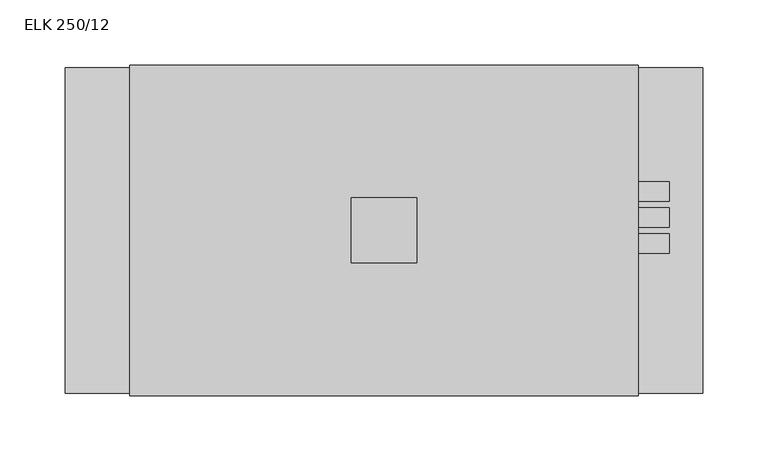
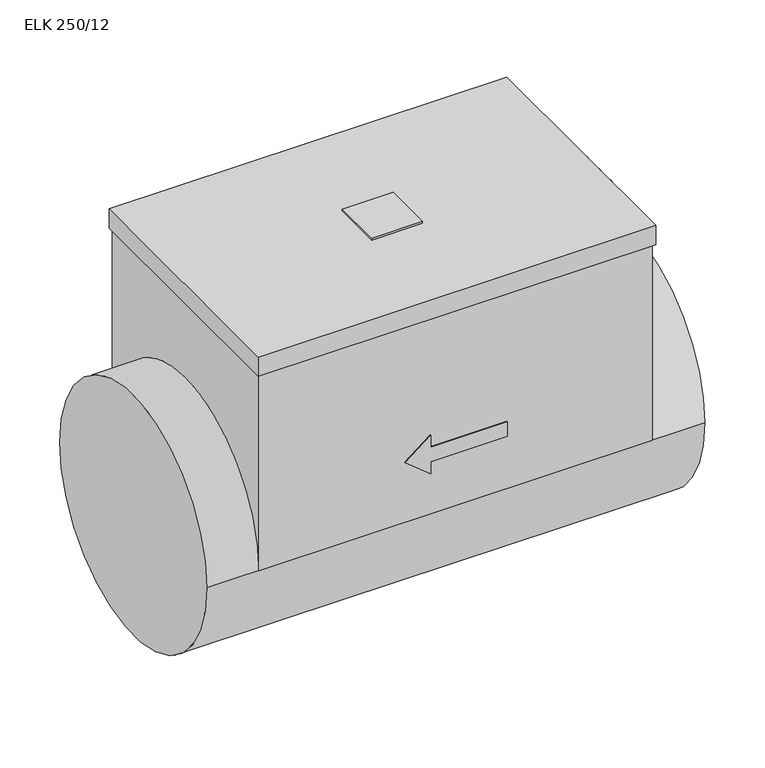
"""IFC4 building model written with IfcOpenShell, lengths in millimetres: proxy geometry, KORF_Нагреватель_Электрический_Круглый_ELK : ELK 250/12."""

from ifc_helpers import new_model, si_unit, point, frame, frame_2d, origin, place, context, project, spatial, polyline, circle_curve, trimmed, segment, composite_curve, outline, extrude, source, transform, mapped, element, save
from ifc_brep_helpers import plane_surface, cylinder_surface, advanced_brep


def elk_250_12_b1c06b70(model_context):
    return source(origin(), model_context, "Body", "SolidModel", [
        extrude(outline(polyline([(270.0, 25.0), (270.0, -25.0), (220.0, -25.0), (220.0, 25.0), (270.0, 25.0)])), frame((0.0, 0.0, 224.0), z_axis=(0.0, 0.0, 1.0), x_axis=(1.0, 0.0, 0.0)), (0.0, 0.0, 1.0), 2.0),
        extrude(outline(composite_curve([segment(trimmed(circle_curve(frame_2d((-10.0, 184.0)), 7.5), [point((-17.5, 184.0))], [point((-2.5, 184.0))], False, "CARTESIAN"), True, "CONTINUOUS"), segment(trimmed(circle_curve(frame_2d((-10.0, 184.0)), 7.5), [point((-2.5, 184.0))], [point((-17.5, 184.0))], False, "CARTESIAN"), True, "CONTINUOUS")], self_intersect=False)), frame((438.5, 0.0, 0.0), z_axis=(1.0, 0.0, 0.0), x_axis=(0.0, 1.0, 0.0)), (0.0, 0.0, 1.0), 25.75),
        extrude(outline(composite_curve([segment(trimmed(circle_curve(frame_2d((10.0, 184.0)), 7.5), [point((2.5, 184.0))], [point((17.5, 184.0))], False, "CARTESIAN"), True, "CONTINUOUS"), segment(trimmed(circle_curve(frame_2d((10.0, 184.0)), 7.5), [point((17.5, 184.0))], [point((2.5, 184.0))], False, "CARTESIAN"), True, "CONTINUOUS")], self_intersect=False)), frame((438.5, 0.0, 0.0), z_axis=(1.0, 0.0, 0.0), x_axis=(0.0, 1.0, 0.0)), (0.0, 0.0, 1.0), 25.75),
        extrude(outline(composite_curve([segment(trimmed(circle_curve(frame_2d((30.0, 184.0)), 7.5), [point((22.5, 184.0))], [point((37.5, 184.0))], False, "CARTESIAN"), True, "CONTINUOUS"), segment(trimmed(circle_curve(frame_2d((30.0, 184.0)), 7.5), [point((37.5, 184.0))], [point((22.5, 184.0))], False, "CARTESIAN"), True, "CONTINUOUS")], self_intersect=False)), frame((438.5, 0.0, 0.0), z_axis=(1.0, 0.0, 0.0), x_axis=(0.0, 1.0, 0.0)), (0.0, 0.0, 1.0), 25.75),
        advanced_brep(
        [(440.5, 127.0, 204.0), (440.5, -127.0, 204.0), (49.5, -127.0, 204.0), (49.5, 127.0, 204.0), (438.5, 125.0, 204.0), (51.5, 125.0, 204.0), (51.5, -125.0, 204.0), (438.5, -125.0, 204.0), (440.5, 127.0, 224.0), (49.5, 127.0, 224.0), (49.5, -127.0, 224.0), (440.5, -127.0, 224.0), (438.5, 125.0, 0.0), (51.5, 125.0, 0.0), (220.0, 125.0, 82.5), (195.0, 125.0, 62.5), (220.0, 125.0, 42.5), (220.0, 125.0, 55.0), (295.0, 125.0, 55.0), (295.0, 125.0, 70.0), (220.0, 125.0, 70.0), (51.5, -125.0, 0.0), (438.5, -125.0, 0.0), (195.0, -125.0, 62.5), (220.0, -125.0, 82.5), (220.0, -125.0, 70.0), (295.0, -125.0, 70.0), (295.0, -125.0, 55.0), (220.0, -125.0, 55.0), (220.0, -125.0, 42.5), (490.0, -125.0, 0.0), (490.0, 125.0, 0.0), (0.0, -125.0, 0.0), (0.0, 125.0, 0.0), (220.0, -126.0, 82.5), (195.0, -126.0, 62.5), (220.0, -126.0, 42.5), (220.0, -126.0, 55.0), (295.0, -126.0, 55.0), (295.0, -126.0, 70.0), (220.0, -126.0, 70.0), (220.0, 126.0, 82.5), (220.0, 126.0, 70.0), (295.0, 126.0, 70.0), (295.0, 126.0, 55.0), (220.0, 126.0, 55.0), (220.0, 126.0, 42.5), (195.0, 126.0, 62.5)],
        [
            (0, 1),
            (1, 2),
            (2, 3),
            (3, 0),
            (4, 5),
            (5, 6),
            (6, 7),
            (7, 4),
            (8, 9),
            (9, 10),
            (10, 11),
            (11, 8),
            (3, 9),
            (8, 0),
            (2, 10),
            (1, 11),
            (4, 12),
            (12, 13),
            (13, 5),
            (14, 15),
            (15, 16),
            (16, 17),
            (17, 18),
            (18, 19),
            (19, 20),
            (20, 14),
            (13, 21, circle_curve(frame((51.5, 0.0, 0.0), z_axis=(1.0, 0.0, 0.0), x_axis=(0.0, 1.0, 0.0)), 125.0)),
            (21, 6),
            (21, 22),
            (22, 7),
            (23, 24),
            (24, 25),
            (25, 26),
            (26, 27),
            (27, 28),
            (28, 29),
            (29, 23),
            (22, 12, circle_curve(frame((438.5, 0.0, 0.0), z_axis=(-1.0, 0.0, 0.0), x_axis=(0.0, 1.0, 0.0)), 125.0)),
            (30, 31, circle_curve(frame((490.0, 0.0, 0.0), z_axis=(1.0, 0.0, 0.0), x_axis=(0.0, 1.0, 0.0)), 125.0)),
            (31, 30, circle_curve(frame((490.0, 0.0, 0.0), z_axis=(1.0, 0.0, 0.0), x_axis=(0.0, 1.0, 0.0)), 125.0)),
            (32, 33, circle_curve(frame((0.0, 0.0, 0.0), z_axis=(-1.0, 0.0, 0.0), x_axis=(0.0, 1.0, 0.0)), 125.0)),
            (33, 32, circle_curve(frame((0.0, 0.0, 0.0), z_axis=(-1.0, 0.0, 0.0), x_axis=(0.0, 1.0, 0.0)), 125.0)),
            (30, 22),
            (21, 32),
            (33, 13),
            (12, 31),
            (34, 35),
            (35, 36),
            (36, 37),
            (37, 38),
            (38, 39),
            (39, 40),
            (40, 34),
            (41, 42),
            (42, 43),
            (43, 44),
            (44, 45),
            (45, 46),
            (46, 47),
            (47, 41),
            (34, 24),
            (23, 35),
            (47, 15),
            (14, 41),
            (29, 36),
            (46, 16),
            (28, 37),
            (45, 17),
            (27, 38),
            (44, 18),
            (26, 39),
            (43, 19),
            (25, 40),
            (42, 20),
        ],
        [
            plane_surface(frame((49.5, 127.0, 204.0), z_axis=(0.0, 0.0, -1.0), x_axis=(1.0, 0.0, 0.0))),
            plane_surface(frame((49.5, 127.0, 224.0), z_axis=(0.0, 0.0, 1.0), x_axis=(-1.0, 0.0, 0.0))),
            plane_surface(frame((440.5, 127.0, 224.0), z_axis=(0.0, 1.0, 0.0), x_axis=(0.0, 0.0, -1.0))),
            plane_surface(frame((49.5, 127.0, 224.0), z_axis=(-1.0, 0.0, 0.0), x_axis=(0.0, 0.0, -1.0))),
            plane_surface(frame((49.5, -127.0, 224.0), z_axis=(0.0, -1.0, 0.0), x_axis=(0.0, 0.0, -1.0))),
            plane_surface(frame((440.5, -127.0, 224.0), z_axis=(1.0, 0.0, 0.0), x_axis=(0.0, 0.0, -1.0))),
            plane_surface(frame((438.5, 125.0, 224.0), z_axis=(0.0, 1.0, 0.0), x_axis=(0.0, 0.0, -1.0))),
            plane_surface(frame((51.5, 125.0, 224.0), z_axis=(-1.0, 0.0, 0.0), x_axis=(0.0, 0.0, -1.0))),
            plane_surface(frame((51.5, -125.0, 224.0), z_axis=(0.0, -1.0, 0.0), x_axis=(0.0, 0.0, -1.0))),
            plane_surface(frame((438.5, -125.0, 224.0), z_axis=(1.0, 0.0, 0.0), x_axis=(0.0, 0.0, -1.0))),
            plane_surface(frame((490.0, 125.0, 0.0), z_axis=(1.0, 0.0, 0.0), x_axis=(0.0, 0.0, 1.0))),
            plane_surface(frame((0.0, 125.0, 0.0), z_axis=(-1.0, 0.0, 0.0), x_axis=(0.0, 0.0, -1.0))),
            cylinder_surface(frame((0.0, 0.0, 0.0), z_axis=(1.0, 0.0, 0.0), x_axis=(0.0, 1.0, 0.0)), 125.0),
            plane_surface(frame((195.0, -126.0, 62.5), z_axis=(0.0, -1.0000000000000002, 0.0), x_axis=(-0.7808688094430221, 0.0, -0.6246950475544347))),
            plane_surface(frame((195.0, 126.0, 62.5), z_axis=(0.0, 1.0000000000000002, 0.0), x_axis=(0.7808688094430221, 0.0, 0.6246950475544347))),
            plane_surface(frame((220.0, -126.0, 82.5), z_axis=(-0.6246950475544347, 0.0, 0.7808688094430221), x_axis=(0.0, 1.0, 0.0))),
            plane_surface(frame((195.0, -126.0, 62.5), z_axis=(-0.624695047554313, 0.0, -0.7808688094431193), x_axis=(0.0, 1.0, 0.0))),
            plane_surface(frame((220.0, -126.0, 42.5), z_axis=(1.0, 0.0, 0.0), x_axis=(0.0, 1.0, 0.0))),
            plane_surface(frame((220.0, -126.0, 55.0), z_axis=(0.0, 0.0, -1.0), x_axis=(0.0, 1.0, 0.0))),
            plane_surface(frame((295.0, -126.0, 55.0), z_axis=(1.0, 0.0, 0.0), x_axis=(0.0, 1.0, 0.0))),
            plane_surface(frame((295.0, -126.0, 70.0), z_axis=(0.0, 0.0, 1.0), x_axis=(0.0, 1.0, 0.0))),
            plane_surface(frame((220.0, -126.0, 70.0), z_axis=(1.0, 0.0, 0.0), x_axis=(0.0, 1.0, 0.0))),
        ],
        [
            (0, [[1, 2, 3, 4], [5, 6, 7, 8]]),
            (1, [[9, 10, 11, 12]]),
            (2, [[-4, 13, -9, 14]]),
            (3, [[-3, 15, -10, -13]]),
            (4, [[-2, 16, -11, -15]]),
            (5, [[-1, -14, -12, -16]]),
            (6, [[17, 18, 19, -5], [20, 21, 22, 23, 24, 25, 26]]),
            (7, [[-19, 27, 28, -6]]),
            (8, [[-28, 29, 30, -7], [31, 32, 33, 34, 35, 36, 37]]),
            (9, [[-17, -8, -30, 38]]),
            (10, [[39, 40]]),
            (11, [[41, 42]]),
            (12, [[-39, 43, -29, 44, -42, 45, -18, 46]]),
            (12, [[-40, -46, -38, -43]]),
            (12, [[-41, -44, -27, -45]]),
            (13, [[47, 48, 49, 50, 51, 52, 53]]),
            (14, [[54, 55, 56, 57, 58, 59, 60]]),
            (15, [[-47, 61, -31, 62]]),
            (15, [[-60, 63, -20, 64]]),
            (16, [[-48, -62, -37, 65]]),
            (16, [[-59, 66, -21, -63]]),
            (17, [[-49, -65, -36, 67]]),
            (17, [[-58, 68, -22, -66]]),
            (18, [[-50, -67, -35, 69]]),
            (18, [[-57, 70, -23, -68]]),
            (19, [[-51, -69, -34, 71]]),
            (19, [[-56, 72, -24, -70]]),
            (20, [[-52, -71, -33, 73]]),
            (20, [[-55, 74, -25, -72]]),
            (21, [[-53, -73, -32, -61]]),
            (21, [[-54, -64, -26, -74]]),
        ],
    ),
    ])


if __name__ == "__main__":
    model = new_model("IFC4")
    model_context = context("Model", 3, world=origin())
    ifc_project = project(units=[si_unit("LENGTHUNIT", "METRE", prefix="MILLI")], contexts=[model_context])
    site = spatial("IfcSite", under=ifc_project)
    building = spatial("IfcBuilding", under=site)
    placement = place(None, origin())
    elk_250_12_shape = elk_250_12_b1c06b70(model_context)
    element("IfcBuildingElementProxy", 1, Name="KORF_Нагреватель_Электрический_Круглый_ELK : ELK 250/12", ObjectType="KORF_Нагреватель_Электрический_Круглый_ELK : ELK 250/12", at=placement, inside=building, context=model_context, shape_type="MappedRepresentation", body=[
        mapped(elk_250_12_shape, transform((0.0, 0.0, 0.0), x_axis=(1.0, 0.0, 0.0), y_axis=(0.0, 1.0, 0.0), z_axis=(0.0, 0.0, 1.0))),
    ])
    save(model, "model.ifc")
